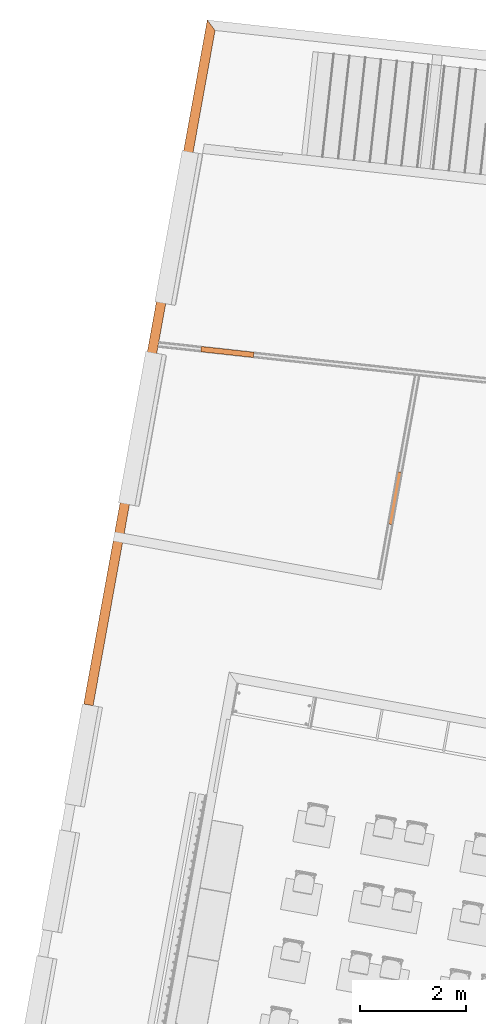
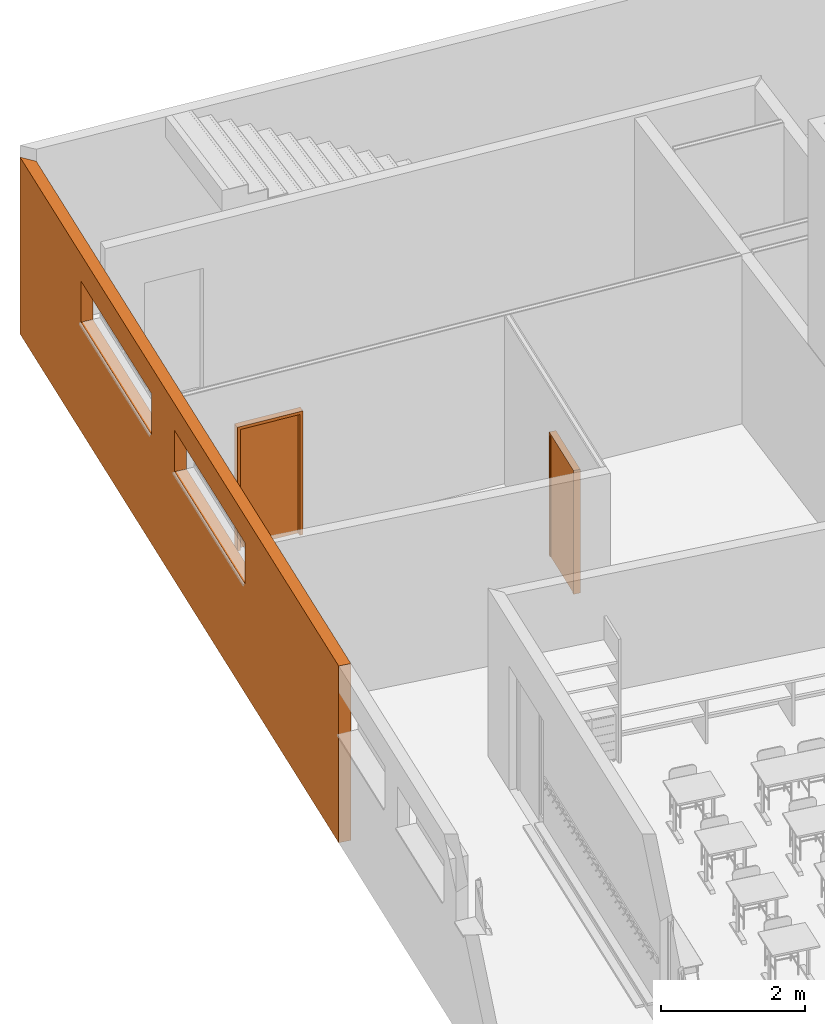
# One storey, part 67 of 79: 3 proxies.
"""IFC2X3 building model written with IfcOpenShell, lengths in metres."""

from ifc_helpers import new_model, entity, si_unit, converted_unit, derived_unit, money_unit, direction, frame, origin_with_axes, place, context, subcontext, project, spatial, polyline, outline, extrude, boolean, faceted_brep, material, type_object, element, save


model = new_model("IFC2X3")

# Units and contexts
model_context = context("Model", 3, precision=1e-05, world=origin_with_axes(), true_north=direction((0.0, 1.0)))
body_context = subcontext(model_context, "Body", "Model", "MODEL_VIEW")
ifc_project = project(units=[si_unit("LENGTHUNIT", "METRE"), si_unit("AREAUNIT", "SQUARE_METRE"), si_unit("VOLUMEUNIT", "CUBIC_METRE"), converted_unit("PLANEANGLEUNIT", "DEGREE", entity("IfcPlaneAngleMeasure", 0.0174532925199), si_unit("PLANEANGLEUNIT", "RADIAN"), dimensions=[0, 0, 0, 0, 0, 0, 0]), money_unit("CHF"), converted_unit("TIMEUNIT", "Year", entity("IfcTimeMeasure", 31556926.0), si_unit("TIMEUNIT", "SECOND"), dimensions=[0, 0, 1, 0, 0, 0, 0]), si_unit("MASSUNIT", "GRAM", prefix="KILO"), si_unit("THERMODYNAMICTEMPERATUREUNIT", "DEGREE_CELSIUS"), si_unit("LUMINOUSINTENSITYUNIT", "LUMEN"), si_unit("ENERGYUNIT", "JOULE", prefix="MEGA"), derived_unit("THERMALCONDUCTANCEUNIT", [(si_unit("POWERUNIT", "WATT"), 1), (si_unit("LENGTHUNIT", "METRE"), -1), (si_unit("THERMODYNAMICTEMPERATUREUNIT", "KELVIN"), -1)]), derived_unit("SPECIFICHEATCAPACITYUNIT", [(si_unit("ENERGYUNIT", "JOULE"), 1), (si_unit("MASSUNIT", "GRAM", prefix="KILO"), -1), (si_unit("THERMODYNAMICTEMPERATUREUNIT", "KELVIN"), -1)]), derived_unit("MASSDENSITYUNIT", [(si_unit("MASSUNIT", "GRAM", prefix="KILO"), 1), (si_unit("VOLUMEUNIT", "CUBIC_METRE"), -1)])], contexts=[model_context])

# Site, building, storey
site_placement = place(None, frame((0.0, 0.0, 0.0), z_axis=(0.0, 0.0, 1.0), x_axis=(-0.177771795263, -0.984071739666, 0.0)))
site = spatial("IfcSite", under=ifc_project, at=site_placement, Name="Site", CompositionType="ELEMENT")
building_placement = place(site_placement, origin_with_axes())
building = spatial("IfcBuilding", under=site, at=building_placement, Name="Bâtiment", CompositionType="ELEMENT")
storey_placement = place(building_placement, origin_with_axes())
storey = spatial("IfcBuildingStorey", under=building, at=storey_placement, Name="RDC", CompositionType="ELEMENT", Elevation=0.0)

# Proxies
ifc_material_1 = material(Name="Matériau de construction IFC")
building_element_proxy_type_1 = type_object("IfcBuildingElementProxyType", Name="Porte 21", PredefinedType="NOTDEFINED")
proxy_1_placement = place(storey_placement, frame((106.643572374, -154.082674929, 0.0), z_axis=(0.0, 0.0, 1.0), x_axis=(-1.0, 0.0, 0.0)))
element("IfcBuildingElementProxy", 1, at=proxy_1_placement, inside=storey, type_object=building_element_proxy_type_1, material=ifc_material_1, Name="27", context=body_context, shape_type="Brep", body=[
    faceted_brep([(0.95, 0.06, 0.0), (0.95, 0.0, 0.0), (0.95, 0.0, 2.05), (0.95, 0.06, 2.05), (0.962, 0.06, 0.0), (0.962, 0.1, 0.0), (1.0, 0.1, 0.0), (1.0, 0.0, 0.0), (1.0, 0.0, 2.05), (0.962, 0.06, 2.05), (1.0, 0.1, 2.05), (0.962, 0.1, 2.05)], [[[0, 1, 2, 3]], [[4, 5, 6, 7, 1, 0]], [[1, 7, 8, 2]], [[9, 3, 2, 8, 10, 11]], [[9, 4, 0, 3]], [[11, 5, 4, 9]], [[11, 10, 6, 5]], [[6, 10, 8, 7]]]),
    faceted_brep([(0.038, 0.06, 2.05), (0.038, 0.1, 2.05), (0.0, 0.1, 2.05), (0.0, 0.0, 2.05), (0.05, 0.0, 2.05), (0.05, 0.06, 2.05), (0.038, 0.06, 0.0), (0.038, 0.1, 0.0), (0.0, 0.1, 0.0), (0.0, 0.0, 0.0), (0.05, 0.0, 0.0), (0.05, 0.06, 0.0)], [[[0, 1, 2, 3, 4, 5]], [[0, 6, 7, 1]], [[7, 8, 2, 1]], [[2, 8, 9, 3]], [[3, 9, 10, 4]], [[5, 4, 10, 11]], [[5, 11, 6, 0]], [[6, 11, 10, 9, 8, 7]]]),
    faceted_brep([(0.962, 0.1, 2.062), (0.038, 0.1, 2.062), (0.038, 0.1, 2.05), (0.0, 0.1, 2.05), (0.0, 0.1, 2.1), (1.0, 0.1, 2.1), (1.0, 0.1, 2.05), (0.962, 0.1, 2.05), (0.962, 0.06, 2.062), (0.038, 0.06, 2.062), (0.038, 0.06, 2.05), (0.05, 0.06, 2.05), (0.05, 0.0, 2.05), (0.0, 0.0, 2.05), (0.0, 0.0, 2.1), (1.0, 0.0, 2.1), (1.0, 0.0, 2.05), (0.962, 0.06, 2.05), (0.95, 0.0, 2.05), (0.95, 0.06, 2.05)], [[[0, 1, 2, 3, 4, 5, 6, 7]], [[0, 8, 9, 1]], [[1, 9, 10, 2]], [[10, 11, 12, 13, 3, 2]], [[4, 3, 13, 14]], [[5, 4, 14, 15]], [[6, 5, 15, 16]], [[17, 7, 6, 16, 18, 19]], [[7, 17, 8, 0]], [[10, 9, 8, 17, 19, 11]], [[19, 18, 12, 11]], [[12, 18, 16, 15, 14, 13]]]),
    faceted_brep([(0.038, 0.09, 0.0), (0.962, 0.09, 0.0), (0.962, 0.06, 0.0), (0.038, 0.06, 0.0), (0.038, 0.09, 2.062), (0.962, 0.09, 2.062), (0.962, 0.06, 2.062), (0.038, 0.06, 2.062)], [[[0, 1, 2, 3]], [[0, 4, 5, 1]], [[1, 5, 6, 2]], [[3, 2, 6, 7]], [[4, 0, 3, 7]], [[5, 4, 7, 6]]]),
])
proxy_2_placement = place(storey_placement, frame((104.073140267, -158.177187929, 0.0), z_axis=(0.0, 0.0, 1.0), x_axis=(-0.0692627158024, 0.997598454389, 0.0)))
element("IfcBuildingElementProxy", 2, at=proxy_2_placement, inside=storey, type_object=building_element_proxy_type_1, material=ifc_material_1, Name="28", context=body_context, shape_type="Brep", body=[
    faceted_brep([(0.0, 0.06, 0.0), (0.0, 0.06, 2.05), (0.0, 0.0, 2.05), (0.0, 0.0, 0.0), (-0.012, 0.06, 2.05), (-0.012, 0.06, 0.0), (-0.0119999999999, 0.1, 2.05), (-0.05, 0.1, 2.05), (-0.05, 0.0, 2.05), (-0.05, 0.0, 0.0), (-0.05, 0.1, 0.0), (-0.0119999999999, 0.1, 0.0)], [[[0, 1, 2, 3]], [[4, 1, 0, 5]], [[4, 6, 7, 8, 2, 1]], [[3, 2, 8, 9]], [[5, 0, 3, 9, 10, 11]], [[6, 4, 5, 11]], [[6, 11, 10, 7]], [[10, 9, 8, 7]]]),
    faceted_brep([(0.912, 0.06, 2.05), (0.9, 0.06, 2.05), (0.9, 0.0, 2.05), (0.95, 0.0, 2.05), (0.95, 0.1, 2.05), (0.912, 0.1, 2.05), (0.912, 0.06, 0.0), (0.9, 0.06, 0.0), (0.9, 0.0, 0.0), (0.95, 0.0, 0.0), (0.95, 0.1, 0.0), (0.912, 0.1, 0.0)], [[[0, 1, 2, 3, 4, 5]], [[1, 0, 6, 7]], [[1, 7, 8, 2]], [[3, 2, 8, 9]], [[4, 3, 9, 10]], [[11, 5, 4, 10]], [[0, 5, 11, 6]], [[6, 11, 10, 9, 8, 7]]]),
    faceted_brep([(-0.0119999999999, 0.1, 2.062), (-0.0119999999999, 0.1, 2.05), (-0.05, 0.1, 2.05), (-0.05, 0.1, 2.1), (0.95, 0.1, 2.1), (0.95, 0.1, 2.05), (0.912, 0.1, 2.05), (0.912, 0.1, 2.062), (-0.012, 0.06, 2.062), (-0.012, 0.06, 2.05), (0.0, 0.06, 2.05), (0.0, 0.0, 2.05), (-0.05, 0.0, 2.05), (-0.05, 0.0, 2.1), (0.95, 0.0, 2.1), (0.95, 0.0, 2.05), (0.912, 0.06, 2.05), (0.9, 0.0, 2.05), (0.9, 0.06, 2.05), (0.912, 0.06, 2.062)], [[[0, 1, 2, 3, 4, 5, 6, 7]], [[1, 0, 8, 9]], [[9, 10, 11, 12, 2, 1]], [[2, 12, 13, 3]], [[3, 13, 14, 4]], [[4, 14, 15, 5]], [[16, 6, 5, 15, 17, 18]], [[7, 6, 16, 19]], [[0, 7, 19, 8]], [[16, 18, 10, 9, 8, 19]], [[10, 18, 17, 11]], [[17, 15, 14, 13, 12, 11]]]),
    faceted_brep([(0.912, 0.09, 0.0), (0.912, 0.06, 0.0), (-0.012, 0.06, 0.0), (-0.012, 0.09, 0.0), (0.912, 0.09, 2.062), (0.912, 0.06, 2.062), (-0.012, 0.06, 2.062), (-0.012, 0.09, 2.062)], [[[0, 1, 2, 3]], [[4, 5, 1, 0]], [[1, 5, 6, 2]], [[3, 2, 6, 7]], [[0, 3, 7, 4]], [[7, 6, 5, 4]]]),
])
ifc_material_2 = material(Name="_BA banché RAL9007")
building_element_proxy_type_2 = type_object("IfcBuildingElementProxyType", Name="_M ext 18 +18 gris 360", PredefinedType="NOTDEFINED")
proxy_3_placement = place(storey_placement, frame((111.004841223, -159.217107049, -0.15), z_axis=(0.0, 0.0, 1.0), x_axis=(-1.0, 0.0, 0.0)))
element("IfcBuildingElementProxy", 3, at=proxy_3_placement, inside=storey, type_object=building_element_proxy_type_2, material=ifc_material_2, Name="M ext-Ouest", context=body_context, shape_type="CSG", body=[
    boolean("DIFFERENCE", boolean("DIFFERENCE", extrude(outline(polyline([(0.0, -0.18), (12.9365491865, -0.18), (13.1044849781, 0.0), (0.0, 0.0), (0.0, -0.18)])), origin_with_axes(), (0.0, 0.0, 1.0), 3.0), faceted_brep([(10.6009532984, 0.0, 1.85), (7.70095329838, 0.0, 1.85), (7.70095329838, 0.0, 2.55), (10.6009532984, 0.0, 2.55), (10.6009532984, -0.18, 1.85), (7.70095329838, -0.18, 1.85), (7.70095329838, -0.18, 2.55), (10.6009532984, -0.18, 2.55)], [[[0, 1, 2, 3]], [[4, 5, 1, 0]], [[5, 6, 2, 1]], [[6, 7, 3, 2]], [[7, 4, 0, 3]], [[4, 7, 6, 5]]])), faceted_brep([(6.75095329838, 0.0, 1.85), (3.85095329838, 0.0, 1.85), (3.85095329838, 0.0, 2.55), (6.75095329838, 0.0, 2.55), (6.75095329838, -0.18, 1.85), (3.85095329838, -0.18, 1.85), (3.85095329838, -0.18, 2.55), (6.75095329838, -0.18, 2.55)], [[[0, 1, 2, 3]], [[4, 5, 1, 0]], [[5, 6, 2, 1]], [[6, 7, 3, 2]], [[7, 4, 0, 3]], [[4, 7, 6, 5]]])),
])

save(model, "model.ifc")
